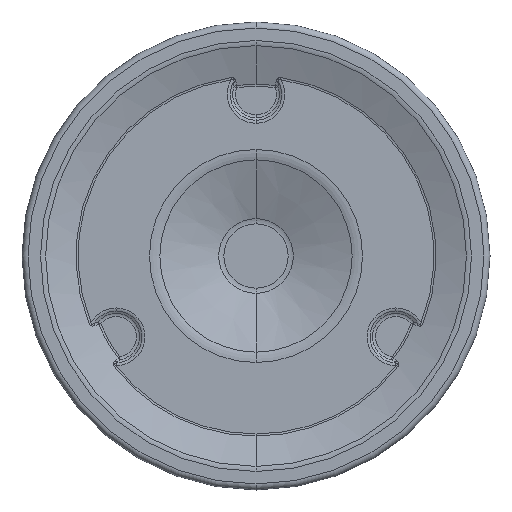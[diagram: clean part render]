
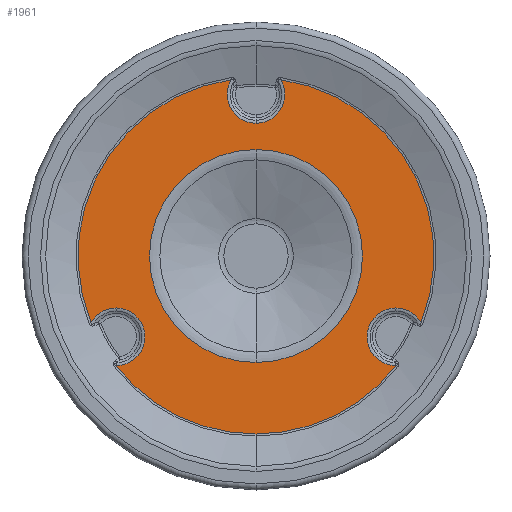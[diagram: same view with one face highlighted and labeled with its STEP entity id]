
A CAD part, front view. The second image highlights one B-rep face of the part: STEP entity #1961.
In plain terms, the highlighted planar face has unit normal (0, -1, 0).
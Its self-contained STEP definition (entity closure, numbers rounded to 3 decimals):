
#32 = ORIENTED_EDGE ( 'NONE', *, *, #1670, .T. ) ;
#35 = ORIENTED_EDGE ( 'NONE', *, *, #1798, .T. ) ;
#54 = CARTESIAN_POINT ( 'NONE',  ( 0., 4., -35.263 ) ) ;
#63 = DIRECTION ( 'NONE',  ( 0., 0., -1. ) ) ;
#69 = EDGE_CURVE ( 'NONE', #2566, #2437, #1400, .T. ) ;
#73 = CARTESIAN_POINT ( 'NONE',  ( -46.332, 4., -26.75 ) ) ;
#76 = CIRCLE ( 'NONE', #1497, 35.263 ) ;
#89 = CARTESIAN_POINT ( 'NONE',  ( 46.332, 4., -26.75 ) ) ;
#90 = CARTESIAN_POINT ( 'NONE',  ( 8.192, 4., 58.382 ) ) ;
#127 = DIRECTION ( 'NONE',  ( 0., 1., 0. ) ) ;
#175 = DIRECTION ( 'NONE',  ( 0., -1., 0. ) ) ;
#179 = DIRECTION ( 'NONE',  ( 0., 0., -1. ) ) ;
#190 = CIRCLE ( 'NONE', #360, 9.536 ) ;
#194 = DIRECTION ( 'NONE',  ( 0., -1., 0. ) ) ;
#195 = AXIS2_PLACEMENT_3D ( 'NONE', #467, #175, #3377 ) ;
#200 = CARTESIAN_POINT ( 'NONE',  ( 0., 4., 0. ) ) ;
#233 = DIRECTION ( 'NONE',  ( 0., -1., 0. ) ) ;
#294 = VERTEX_POINT ( 'NONE', #90 ) ;
#312 = AXIS2_PLACEMENT_3D ( 'NONE', #1781, #1468, #3350 ) ;
#324 = CIRCLE ( 'NONE', #2967, 58.954 ) ;
#330 = CARTESIAN_POINT ( 'NONE',  ( 54.656, 4., -22.097 ) ) ;
#336 = EDGE_LOOP ( 'NONE', ( #1979, #35, #1383, #2227, #931, #2979, #1704, #2005, #1692, #32, #2567, #481 ) ) ;
#360 = AXIS2_PLACEMENT_3D ( 'NONE', #1715, #127, #1143 ) ;
#369 = VERTEX_POINT ( 'NONE', #2302 ) ;
#387 = CIRCLE ( 'NONE', #195, 58.954 ) ;
#413 = CIRCLE ( 'NONE', #2637, 9.536 ) ;
#416 = CIRCLE ( 'NONE', #3112, 35.263 ) ;
#449 = CARTESIAN_POINT ( 'NONE',  ( -46.332, 4., -36.286 ) ) ;
#467 = CARTESIAN_POINT ( 'NONE',  ( 0., 4., 0. ) ) ;
#481 = ORIENTED_EDGE ( 'NONE', *, *, #2597, .T. ) ;
#511 = DIRECTION ( 'NONE',  ( 0., -1., 0. ) ) ;
#515 = CARTESIAN_POINT ( 'NONE',  ( 0., 4., 0. ) ) ;
#608 = DIRECTION ( 'NONE',  ( 0., 1., 0. ) ) ;
#615 = CARTESIAN_POINT ( 'NONE',  ( -54.656, 4., -22.097 ) ) ;
#654 = VERTEX_POINT ( 'NONE', #2609 ) ;
#658 = DIRECTION ( 'NONE',  ( 0., 0., -1. ) ) ;
#669 = EDGE_CURVE ( 'NONE', #2749, #294, #2416, .T. ) ;
#676 = AXIS2_PLACEMENT_3D ( 'NONE', #2918, #2123, #2104 ) ;
#730 = CARTESIAN_POINT ( 'NONE',  ( 46.332, 4., -36.286 ) ) ;
#783 = CARTESIAN_POINT ( 'NONE',  ( 0., 4., 0. ) ) ;
#792 = AXIS2_PLACEMENT_3D ( 'NONE', #200, #233, #2864 ) ;
#831 = EDGE_CURVE ( 'NONE', #1384, #2749, #2600, .T. ) ;
#931 = ORIENTED_EDGE ( 'NONE', *, *, #2465, .T. ) ;
#937 = EDGE_CURVE ( 'NONE', #654, #3244, #1248, .T. ) ;
#986 = CARTESIAN_POINT ( 'NONE',  ( 46.332, 4., -17.214 ) ) ;
#999 = DIRECTION ( 'NONE',  ( 0., 1., 0. ) ) ;
#1018 = PLANE ( 'NONE',  #676 ) ;
#1031 = EDGE_CURVE ( 'NONE', #2254, #2566, #2545, .T. ) ;
#1051 = DIRECTION ( 'NONE',  ( 0., 0., -1. ) ) ;
#1105 = DIRECTION ( 'NONE',  ( 0., 1., 0. ) ) ;
#1143 = DIRECTION ( 'NONE',  ( 0., 0., -1. ) ) ;
#1248 = CIRCLE ( 'NONE', #792, 58.954 ) ;
#1262 = EDGE_CURVE ( 'NONE', #2924, #1906, #3332, .T. ) ;
#1292 = DIRECTION ( 'NONE',  ( 0., 0., -1. ) ) ;
#1322 = DIRECTION ( 'NONE',  ( 0., 1., 0. ) ) ;
#1383 = ORIENTED_EDGE ( 'NONE', *, *, #831, .T. ) ;
#1384 = VERTEX_POINT ( 'NONE', #986 ) ;
#1396 = AXIS2_PLACEMENT_3D ( 'NONE', #73, #608, #658 ) ;
#1397 = AXIS2_PLACEMENT_3D ( 'NONE', #2446, #1897, #1910 ) ;
#1400 = CIRCLE ( 'NONE', #1396, 9.536 ) ;
#1468 = DIRECTION ( 'NONE',  ( 0., 1., 0. ) ) ;
#1488 = CARTESIAN_POINT ( 'NONE',  ( 0., 4., 0. ) ) ;
#1497 = AXIS2_PLACEMENT_3D ( 'NONE', #1724, #2284, #179 ) ;
#1561 = VERTEX_POINT ( 'NONE', #2433 ) ;
#1632 = CARTESIAN_POINT ( 'NONE',  ( 0., 4., -58.954 ) ) ;
#1660 = DIRECTION ( 'NONE',  ( 0., 1., 0. ) ) ;
#1670 = EDGE_CURVE ( 'NONE', #2437, #654, #190, .T. ) ;
#1692 = ORIENTED_EDGE ( 'NONE', *, *, #69, .T. ) ;
#1701 = CIRCLE ( 'NONE', #2421, 9.536 ) ;
#1704 = ORIENTED_EDGE ( 'NONE', *, *, #1901, .T. ) ;
#1715 = CARTESIAN_POINT ( 'NONE',  ( -46.332, 4., -26.75 ) ) ;
#1724 = CARTESIAN_POINT ( 'NONE',  ( 0., 4., 0. ) ) ;
#1781 = CARTESIAN_POINT ( 'NONE',  ( 46.332, 4., -26.75 ) ) ;
#1798 = EDGE_CURVE ( 'NONE', #1906, #1384, #3164, .T. ) ;
#1865 = DIRECTION ( 'NONE',  ( 0., 0., -1. ) ) ;
#1879 = AXIS2_PLACEMENT_3D ( 'NONE', #1488, #194, #3382 ) ;
#1897 = DIRECTION ( 'NONE',  ( 0., 1., 0. ) ) ;
#1901 = EDGE_CURVE ( 'NONE', #369, #2254, #387, .T. ) ;
#1906 = VERTEX_POINT ( 'NONE', #730 ) ;
#1910 = DIRECTION ( 'NONE',  ( 0., 0., -1. ) ) ;
#1944 = AXIS2_PLACEMENT_3D ( 'NONE', #89, #1660, #3318 ) ;
#1961 = ADVANCED_FACE ( 'NONE', ( #3127, #3325 ), #1018, .T. ) ;
#1970 = CARTESIAN_POINT ( 'NONE',  ( 46.464, 4., -36.285 ) ) ;
#1979 = ORIENTED_EDGE ( 'NONE', *, *, #1262, .T. ) ;
#2005 = ORIENTED_EDGE ( 'NONE', *, *, #1031, .T. ) ;
#2104 = DIRECTION ( 'NONE',  ( 0., 0., -1. ) ) ;
#2123 = DIRECTION ( 'NONE',  ( 0., -1., 0. ) ) ;
#2227 = ORIENTED_EDGE ( 'NONE', *, *, #669, .T. ) ;
#2254 = VERTEX_POINT ( 'NONE', #615 ) ;
#2284 = DIRECTION ( 'NONE',  ( 0., 1., 0. ) ) ;
#2302 = CARTESIAN_POINT ( 'NONE',  ( -8.192, 4., 58.382 ) ) ;
#2395 = EDGE_CURVE ( 'NONE', #1561, #3176, #76, .T. ) ;
#2416 = CIRCLE ( 'NONE', #1879, 58.954 ) ;
#2421 = AXIS2_PLACEMENT_3D ( 'NONE', #3173, #2623, #2632 ) ;
#2433 = CARTESIAN_POINT ( 'NONE',  ( 0., 4., 35.263 ) ) ;
#2437 = VERTEX_POINT ( 'NONE', #449 ) ;
#2446 = CARTESIAN_POINT ( 'NONE',  ( -46.332, 4., -26.75 ) ) ;
#2465 = EDGE_CURVE ( 'NONE', #294, #2703, #1701, .T. ) ;
#2545 = CIRCLE ( 'NONE', #1397, 9.536 ) ;
#2566 = VERTEX_POINT ( 'NONE', #2704 ) ;
#2567 = ORIENTED_EDGE ( 'NONE', *, *, #937, .T. ) ;
#2597 = EDGE_CURVE ( 'NONE', #3244, #2924, #324, .T. ) ;
#2600 = CIRCLE ( 'NONE', #1944, 9.536 ) ;
#2609 = CARTESIAN_POINT ( 'NONE',  ( -46.464, 4., -36.285 ) ) ;
#2623 = DIRECTION ( 'NONE',  ( 0., 1., 0. ) ) ;
#2632 = DIRECTION ( 'NONE',  ( 0., 0., -1. ) ) ;
#2637 = AXIS2_PLACEMENT_3D ( 'NONE', #3028, #1105, #63 ) ;
#2649 = CARTESIAN_POINT ( 'NONE',  ( 46.332, 4., -26.75 ) ) ;
#2703 = VERTEX_POINT ( 'NONE', #3471 ) ;
#2704 = CARTESIAN_POINT ( 'NONE',  ( -46.332, 4., -17.214 ) ) ;
#2749 = VERTEX_POINT ( 'NONE', #330 ) ;
#2768 = EDGE_CURVE ( 'NONE', #2703, #369, #413, .T. ) ;
#2807 = EDGE_LOOP ( 'NONE', ( #2971, #3077 ) ) ;
#2864 = DIRECTION ( 'NONE',  ( 0., 0., -1. ) ) ;
#2918 = CARTESIAN_POINT ( 'NONE',  ( 0., 4., 0. ) ) ;
#2924 = VERTEX_POINT ( 'NONE', #1970 ) ;
#2967 = AXIS2_PLACEMENT_3D ( 'NONE', #783, #511, #1051 ) ;
#2971 = ORIENTED_EDGE ( 'NONE', *, *, #3086, .T. ) ;
#2979 = ORIENTED_EDGE ( 'NONE', *, *, #2768, .T. ) ;
#3028 = CARTESIAN_POINT ( 'NONE',  ( 0., 4., 53.5 ) ) ;
#3077 = ORIENTED_EDGE ( 'NONE', *, *, #2395, .T. ) ;
#3086 = EDGE_CURVE ( 'NONE', #3176, #1561, #416, .T. ) ;
#3110 = AXIS2_PLACEMENT_3D ( 'NONE', #2649, #999, #1292 ) ;
#3112 = AXIS2_PLACEMENT_3D ( 'NONE', #515, #1322, #1865 ) ;
#3127 = FACE_OUTER_BOUND ( 'NONE', #336, .T. ) ;
#3164 = CIRCLE ( 'NONE', #312, 9.536 ) ;
#3173 = CARTESIAN_POINT ( 'NONE',  ( 0., 4., 53.5 ) ) ;
#3176 = VERTEX_POINT ( 'NONE', #54 ) ;
#3244 = VERTEX_POINT ( 'NONE', #1632 ) ;
#3318 = DIRECTION ( 'NONE',  ( 0., 0., -1. ) ) ;
#3325 = FACE_BOUND ( 'NONE', #2807, .T. ) ;
#3332 = CIRCLE ( 'NONE', #3110, 9.536 ) ;
#3350 = DIRECTION ( 'NONE',  ( 0., 0., -1. ) ) ;
#3377 = DIRECTION ( 'NONE',  ( 0., 0., -1. ) ) ;
#3382 = DIRECTION ( 'NONE',  ( 0., 0., -1. ) ) ;
#3471 = CARTESIAN_POINT ( 'NONE',  ( 0., 4., 43.964 ) ) ;
